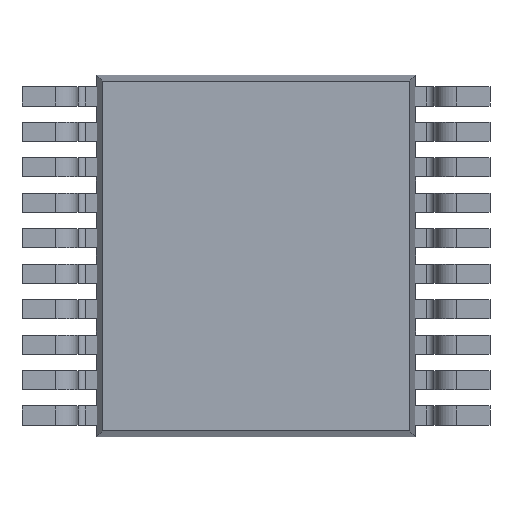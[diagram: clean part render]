
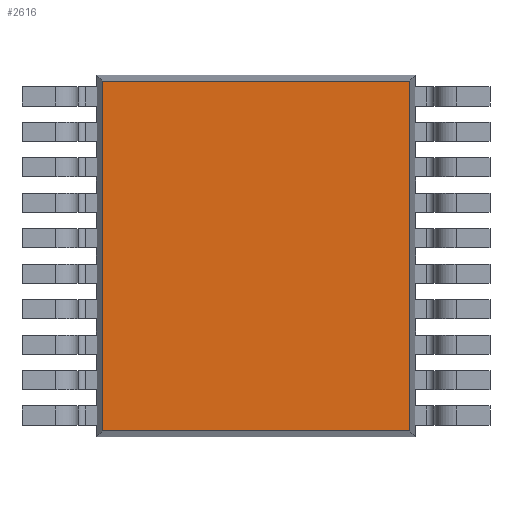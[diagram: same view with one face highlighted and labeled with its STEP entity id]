
A CAD part, front view. The second image highlights one B-rep face of the part: STEP entity #2616.
In plain terms, the highlighted planar face has unit normal (0, -1, 0).
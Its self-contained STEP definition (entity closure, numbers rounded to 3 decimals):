
#245 = EDGE_CURVE ( 'NONE', #11319, #11328, #10130, .T. ) ;
#821 = AXIS2_PLACEMENT_3D ( 'NONE', #5346, #5358, #5359 ) ;
#2616 = ADVANCED_FACE ( 'NONE', ( #9324 ), #5345, .F. ) ;
#5345 = PLANE ( 'NONE',  #821 ) ;
#5346 = CARTESIAN_POINT ( 'NONE',  ( 0., 0.1, 0. ) ) ;
#5358 = DIRECTION ( 'NONE',  ( 0., 1., 0. ) ) ;
#5359 = DIRECTION ( 'NONE',  ( 0., 0., 1. ) ) ;
#5861 = CARTESIAN_POINT ( 'NONE',  ( 2.166, 0.1, -2.466 ) ) ;
#5872 = CARTESIAN_POINT ( 'NONE',  ( 2.166, 0.1, 2.466 ) ) ;
#5884 = CARTESIAN_POINT ( 'NONE',  ( -2.166, 0.1, 2.466 ) ) ;
#5891 = CARTESIAN_POINT ( 'NONE',  ( -2.166, 0.1, -2.466 ) ) ;
#6573 = CARTESIAN_POINT ( 'NONE',  ( 2.25, 0.1, -2.466 ) ) ;
#6584 = CARTESIAN_POINT ( 'NONE',  ( 2.25, 0.1, 2.466 ) ) ;
#6586 = DIRECTION ( 'NONE',  ( 1., 0., 0. ) ) ;
#6588 = DIRECTION ( 'NONE',  ( -1., 0., 0. ) ) ;
#7758 = DIRECTION ( 'NONE',  ( 0., 0., 1. ) ) ;
#7761 = CARTESIAN_POINT ( 'NONE',  ( 2.166, 0.1, 2.55 ) ) ;
#8473 = CARTESIAN_POINT ( 'NONE',  ( -2.166, 0.1, 2.55 ) ) ;
#8478 = DIRECTION ( 'NONE',  ( 0., 0., -1. ) ) ;
#8898 = ORIENTED_EDGE ( 'NONE', *, *, #10999, .T. ) ;
#9022 = ORIENTED_EDGE ( 'NONE', *, *, #245, .T. ) ;
#9024 = ORIENTED_EDGE ( 'NONE', *, *, #10996, .T. ) ;
#9164 = ORIENTED_EDGE ( 'NONE', *, *, #10588, .T. ) ;
#9324 = FACE_OUTER_BOUND ( 'NONE', #11784, .T. ) ;
#10127 = VECTOR ( 'NONE', #7758, 1000. ) ;
#10130 = LINE ( 'NONE', #7761, #10127 ) ;
#10588 = EDGE_CURVE ( 'NONE', #11343, #11348, #12498, .T. ) ;
#10996 = EDGE_CURVE ( 'NONE', #11348, #11319, #12287, .T. ) ;
#10999 = EDGE_CURVE ( 'NONE', #11328, #11343, #12306, .T. ) ;
#11319 = VERTEX_POINT ( 'NONE', #5861 ) ;
#11328 = VERTEX_POINT ( 'NONE', #5872 ) ;
#11343 = VERTEX_POINT ( 'NONE', #5884 ) ;
#11348 = VERTEX_POINT ( 'NONE', #5891 ) ;
#11784 = EDGE_LOOP ( 'NONE', ( #9164, #9024, #9022, #8898 ) ) ;
#12287 = LINE ( 'NONE', #6573, #12313 ) ;
#12306 = LINE ( 'NONE', #6584, #12319 ) ;
#12313 = VECTOR ( 'NONE', #6586, 1000. ) ;
#12319 = VECTOR ( 'NONE', #6588, 1000. ) ;
#12492 = VECTOR ( 'NONE', #8478, 1000. ) ;
#12498 = LINE ( 'NONE', #8473, #12492 ) ;
